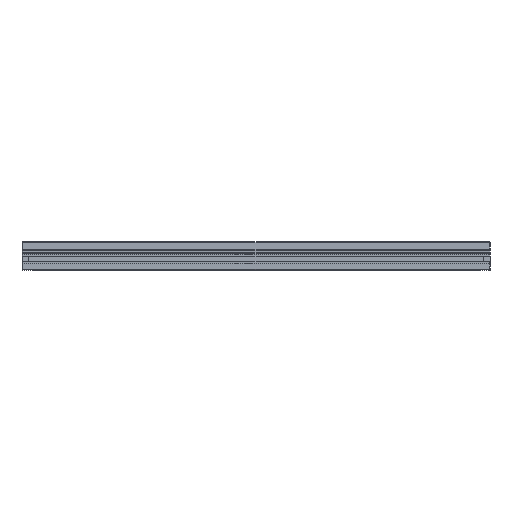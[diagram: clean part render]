
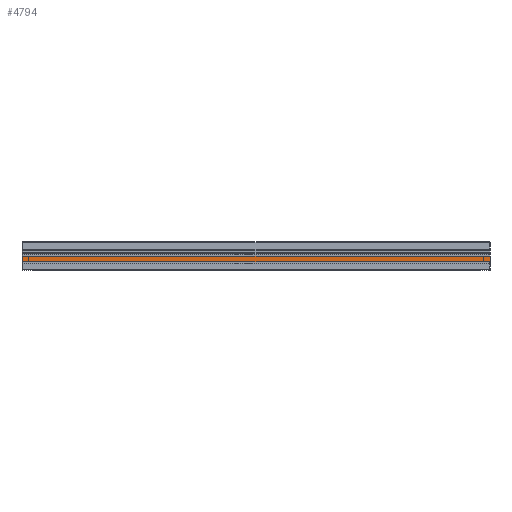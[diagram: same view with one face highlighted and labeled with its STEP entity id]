
A CAD part, front view. The second image highlights one B-rep face of the part: STEP entity #4794.
In plain terms, the highlighted planar face has unit normal (0, -1, 0).
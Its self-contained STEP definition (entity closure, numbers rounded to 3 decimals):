
#860=DIRECTION('',(0.,0.,1.));
#861=VECTOR('',#860,3.5);
#862=CARTESIAN_POINT('',(-157.,-127.8,-11.25));
#863=LINE('',#862,#861);
#1100=DIRECTION('',(0.,0.,1.));
#1101=VECTOR('',#1100,3.5);
#1102=CARTESIAN_POINT('',(157.,-127.8,-11.25));
#1103=LINE('',#1102,#1101);
#1352=DIRECTION('',(-1.,0.,0.));
#1353=VECTOR('',#1352,314.);
#1354=CARTESIAN_POINT('',(157.,-127.8,-11.25));
#1355=LINE('',#1354,#1353);
#1356=DIRECTION('',(-1.,0.,0.));
#1357=VECTOR('',#1356,314.);
#1358=CARTESIAN_POINT('',(157.,-127.8,-7.75));
#1359=LINE('',#1358,#1357);
#2388=CARTESIAN_POINT('',(157.,-127.8,-11.25));
#2389=VERTEX_POINT('',#2388);
#2390=CARTESIAN_POINT('',(157.,-127.8,-7.75));
#2391=VERTEX_POINT('',#2390);
#2416=CARTESIAN_POINT('',(-157.,-127.8,-11.25));
#2417=VERTEX_POINT('',#2416);
#2418=CARTESIAN_POINT('',(-157.,-127.8,-7.75));
#2419=VERTEX_POINT('',#2418);
#4782=CARTESIAN_POINT('',(157.,-127.8,-11.25));
#4783=DIRECTION('',(0.,-1.,0.));
#4784=DIRECTION('',(0.,0.,1.));
#4785=AXIS2_PLACEMENT_3D('',#4782,#4783,#4784);
#4786=PLANE('',#4785);
#4787=ORIENTED_EDGE('',*,*,#4354,.F.);
#4788=ORIENTED_EDGE('',*,*,#4777,.T.);
#4789=ORIENTED_EDGE('',*,*,#4049,.T.);
#4791=ORIENTED_EDGE('',*,*,#4790,.F.);
#4792=EDGE_LOOP('',(#4787,#4788,#4789,#4791));
#4793=FACE_OUTER_BOUND('',#4792,.F.);
#4049=EDGE_CURVE('',#2417,#2419,#863,.T.);
#4354=EDGE_CURVE('',#2389,#2391,#1103,.T.);
#4777=EDGE_CURVE('',#2389,#2417,#1355,.T.);
#4790=EDGE_CURVE('',#2391,#2419,#1359,.T.);
#4794=ADVANCED_FACE('',(#4793),#4786,.T.);
